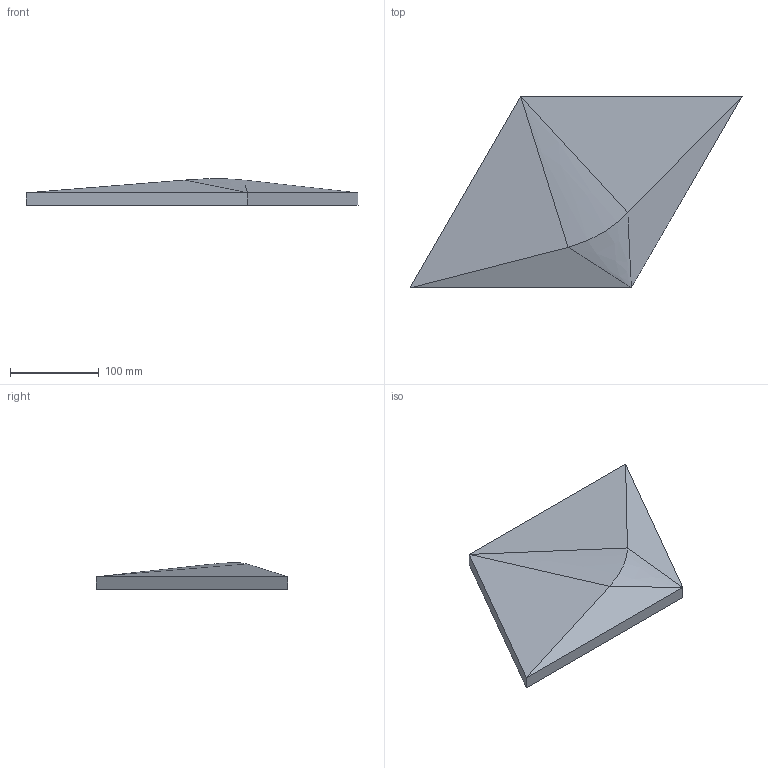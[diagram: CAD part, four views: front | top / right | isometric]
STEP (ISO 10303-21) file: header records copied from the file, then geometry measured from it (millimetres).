
FILE_DESCRIPTION(/* description */ (''),/* implementation_level */ '2;1');
FILE_NAME(/* name */ 'S02_CA~1',/* time_stamp */ '2022-11-14T20:31:37+01:00',/* author */ (''),/* organization */ (''),/* preprocessor_version */ 'ST-DEVELOPER v15',/* originating_system */ '',/* authorisation */ '');
FILE_SCHEMA (('AUTOMOTIVE_DESIGN'));
Length unit declared in the file: millimetre
Products named in the file (1): Document
Bounding box: 375 x 216.51 x 29.83 mm (x, y, z)
Volume: 1069928.2 mm3; surface area: 123114.8 mm2
Topology: 1 solids, 1 shells, 11 faces, 25 edges, 10 vertices
Faces by surface type: bspline 6, plane 5
Entity records: 244 total; most frequent: CARTESIAN_POINT 84, ORIENTED_EDGE 38, EDGE_CURVE 19, B_SPLINE_CURVE_WITH_KNOTS 16, ADVANCED_FACE 11, FACE_OUTER_BOUND 11, EDGE_LOOP 11, VERTEX_POINT 10
